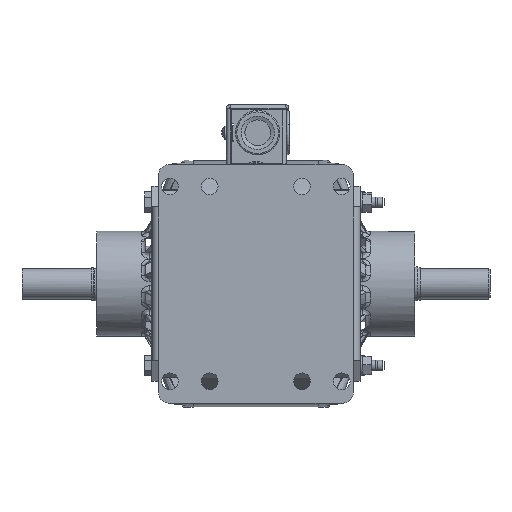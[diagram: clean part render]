
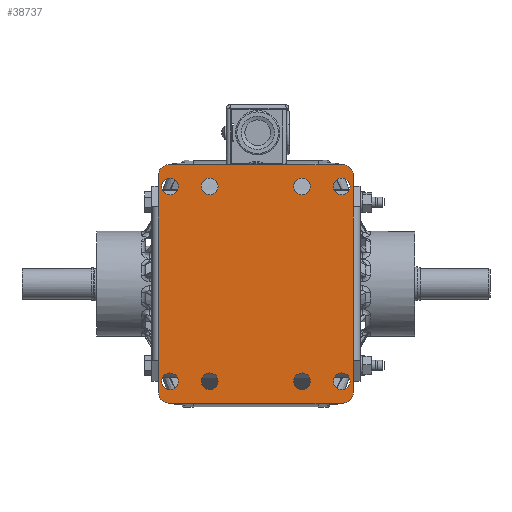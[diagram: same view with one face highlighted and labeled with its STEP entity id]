
A CAD part, left-side view. The second image highlights one B-rep face of the part: STEP entity #38737.
In plain terms, the highlighted planar face has unit normal (-1, 0, 0).
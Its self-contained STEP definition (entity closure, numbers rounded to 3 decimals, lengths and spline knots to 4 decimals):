
#1733=FACE_BOUND('',#5344,.T.);
#1734=FACE_BOUND('',#5345,.T.);
#1735=FACE_BOUND('',#5346,.T.);
#1736=FACE_BOUND('',#5347,.T.);
#1737=FACE_BOUND('',#5348,.T.);
#1738=FACE_BOUND('',#5349,.T.);
#1739=FACE_BOUND('',#5350,.T.);
#1740=FACE_BOUND('',#5351,.T.);
#2055=PLANE('',#41654);
#2715=FACE_OUTER_BOUND('',#5343,.T.);
#5343=EDGE_LOOP('',(#26808,#26809,#26810,#26811,#26812,#26813,#26814,#26815,
#26816,#26817,#26818,#26819));
#5344=EDGE_LOOP('',(#26820));
#5345=EDGE_LOOP('',(#26821));
#5346=EDGE_LOOP('',(#26822));
#5347=EDGE_LOOP('',(#26823));
#5348=EDGE_LOOP('',(#26824));
#5349=EDGE_LOOP('',(#26825));
#5350=EDGE_LOOP('',(#26826));
#5351=EDGE_LOOP('',(#26827));
#9857=CIRCLE('',#41617,0.2031);
#9859=CIRCLE('',#41620,0.2031);
#9861=CIRCLE('',#41623,0.2031);
#9863=CIRCLE('',#41626,0.2031);
#9865=CIRCLE('',#41629,0.2031);
#9867=CIRCLE('',#41632,0.2031);
#9869=CIRCLE('',#41635,0.2031);
#9871=CIRCLE('',#41638,0.2031);
#9884=CIRCLE('',#41655,0.25);
#9885=CIRCLE('',#41656,0.25);
#9886=CIRCLE('',#41657,0.25);
#9887=CIRCLE('',#41658,0.25);
#12515=LINE('',#57998,#14190);
#12516=LINE('',#58000,#14191);
#12517=LINE('',#58002,#14192);
#12518=LINE('',#58006,#14193);
#12519=LINE('',#58010,#14194);
#12520=LINE('',#58012,#14195);
#12521=LINE('',#58014,#14196);
#12522=LINE('',#58018,#14197);
#14190=VECTOR('',#47133,39.3701);
#14191=VECTOR('',#47134,39.3701);
#14192=VECTOR('',#47135,39.3701);
#14193=VECTOR('',#47138,39.3701);
#14194=VECTOR('',#47141,39.3701);
#14195=VECTOR('',#47142,39.3701);
#14196=VECTOR('',#47143,39.3701);
#14197=VECTOR('',#47146,39.3701);
#15944=VERTEX_POINT('',#57911);
#15946=VERTEX_POINT('',#57917);
#15948=VERTEX_POINT('',#57923);
#15950=VERTEX_POINT('',#57929);
#15952=VERTEX_POINT('',#57935);
#15954=VERTEX_POINT('',#57941);
#15956=VERTEX_POINT('',#57947);
#15958=VERTEX_POINT('',#57953);
#15975=VERTEX_POINT('',#57996);
#15976=VERTEX_POINT('',#57997);
#15977=VERTEX_POINT('',#57999);
#15978=VERTEX_POINT('',#58001);
#15979=VERTEX_POINT('',#58003);
#15980=VERTEX_POINT('',#58005);
#15981=VERTEX_POINT('',#58007);
#15982=VERTEX_POINT('',#58009);
#15983=VERTEX_POINT('',#58011);
#15984=VERTEX_POINT('',#58013);
#15985=VERTEX_POINT('',#58015);
#15986=VERTEX_POINT('',#58017);
#19897=EDGE_CURVE('',#15944,#15944,#9857,.T.);
#19900=EDGE_CURVE('',#15946,#15946,#9859,.T.);
#19903=EDGE_CURVE('',#15948,#15948,#9861,.T.);
#19906=EDGE_CURVE('',#15950,#15950,#9863,.T.);
#19909=EDGE_CURVE('',#15952,#15952,#9865,.T.);
#19912=EDGE_CURVE('',#15954,#15954,#9867,.T.);
#19915=EDGE_CURVE('',#15956,#15956,#9869,.T.);
#19918=EDGE_CURVE('',#15958,#15958,#9871,.T.);
#19940=EDGE_CURVE('',#15975,#15976,#12515,.T.);
#19941=EDGE_CURVE('',#15975,#15977,#12516,.T.);
#19942=EDGE_CURVE('',#15978,#15977,#12517,.T.);
#19943=EDGE_CURVE('',#15978,#15979,#9884,.T.);
#19944=EDGE_CURVE('',#15980,#15979,#12518,.T.);
#19945=EDGE_CURVE('',#15980,#15981,#9885,.T.);
#19946=EDGE_CURVE('',#15982,#15981,#12519,.T.);
#19947=EDGE_CURVE('',#15982,#15983,#12520,.T.);
#19948=EDGE_CURVE('',#15984,#15983,#12521,.T.);
#19949=EDGE_CURVE('',#15984,#15985,#9886,.T.);
#19950=EDGE_CURVE('',#15986,#15985,#12522,.T.);
#19951=EDGE_CURVE('',#15986,#15976,#9887,.T.);
#26808=ORIENTED_EDGE('',*,*,#19940,.F.);
#26809=ORIENTED_EDGE('',*,*,#19941,.T.);
#26810=ORIENTED_EDGE('',*,*,#19942,.F.);
#26811=ORIENTED_EDGE('',*,*,#19943,.T.);
#26812=ORIENTED_EDGE('',*,*,#19944,.F.);
#26813=ORIENTED_EDGE('',*,*,#19945,.T.);
#26814=ORIENTED_EDGE('',*,*,#19946,.F.);
#26815=ORIENTED_EDGE('',*,*,#19947,.T.);
#26816=ORIENTED_EDGE('',*,*,#19948,.F.);
#26817=ORIENTED_EDGE('',*,*,#19949,.T.);
#26818=ORIENTED_EDGE('',*,*,#19950,.F.);
#26819=ORIENTED_EDGE('',*,*,#19951,.T.);
#26820=ORIENTED_EDGE('',*,*,#19918,.T.);
#26821=ORIENTED_EDGE('',*,*,#19915,.T.);
#26822=ORIENTED_EDGE('',*,*,#19912,.T.);
#26823=ORIENTED_EDGE('',*,*,#19909,.T.);
#26824=ORIENTED_EDGE('',*,*,#19897,.T.);
#26825=ORIENTED_EDGE('',*,*,#19900,.T.);
#26826=ORIENTED_EDGE('',*,*,#19903,.T.);
#26827=ORIENTED_EDGE('',*,*,#19906,.T.);
#38737=ADVANCED_FACE('',(#2715,#1733,#1734,#1735,#1736,#1737,#1738,#1739,
#1740),#2055,.T.);
#41617=AXIS2_PLACEMENT_3D('',#57912,#47041,#47042);
#41620=AXIS2_PLACEMENT_3D('',#57918,#47048,#47049);
#41623=AXIS2_PLACEMENT_3D('',#57924,#47055,#47056);
#41626=AXIS2_PLACEMENT_3D('',#57930,#47062,#47063);
#41629=AXIS2_PLACEMENT_3D('',#57936,#47069,#47070);
#41632=AXIS2_PLACEMENT_3D('',#57942,#47076,#47077);
#41635=AXIS2_PLACEMENT_3D('',#57948,#47083,#47084);
#41638=AXIS2_PLACEMENT_3D('',#57954,#47090,#47091);
#41654=AXIS2_PLACEMENT_3D('',#57995,#47131,#47132);
#41655=AXIS2_PLACEMENT_3D('',#58004,#47136,#47137);
#41656=AXIS2_PLACEMENT_3D('',#58008,#47139,#47140);
#41657=AXIS2_PLACEMENT_3D('',#58016,#47144,#47145);
#41658=AXIS2_PLACEMENT_3D('',#58019,#47147,#47148);
#47041=DIRECTION('center_axis',(1.,0.,0.));
#47042=DIRECTION('ref_axis',(0.,-1.,0.));
#47048=DIRECTION('center_axis',(1.,0.,0.));
#47049=DIRECTION('ref_axis',(0.,-1.,0.));
#47055=DIRECTION('center_axis',(1.,0.,0.));
#47056=DIRECTION('ref_axis',(0.,-1.,0.));
#47062=DIRECTION('center_axis',(1.,0.,0.));
#47063=DIRECTION('ref_axis',(0.,-1.,0.));
#47069=DIRECTION('center_axis',(1.,0.,0.));
#47070=DIRECTION('ref_axis',(0.,-1.,0.));
#47076=DIRECTION('center_axis',(1.,0.,0.));
#47077=DIRECTION('ref_axis',(0.,-1.,0.));
#47083=DIRECTION('center_axis',(1.,0.,0.));
#47084=DIRECTION('ref_axis',(0.,-1.,0.));
#47090=DIRECTION('center_axis',(1.,0.,0.));
#47091=DIRECTION('ref_axis',(0.,-1.,0.));
#47131=DIRECTION('center_axis',(-1.,0.,0.));
#47132=DIRECTION('ref_axis',(0.,1.,0.));
#47133=DIRECTION('',(0.,0.,1.));
#47134=DIRECTION('',(0.,0.,-1.));
#47135=DIRECTION('',(0.,0.,1.));
#47136=DIRECTION('center_axis',(-1.,0.,0.));
#47137=DIRECTION('ref_axis',(0.,1.,0.));
#47138=DIRECTION('',(0.,1.,0.));
#47139=DIRECTION('center_axis',(-1.,0.,0.));
#47140=DIRECTION('ref_axis',(0.,1.,0.));
#47141=DIRECTION('',(0.,0.,-1.));
#47142=DIRECTION('',(0.,0.,1.));
#47143=DIRECTION('',(0.,0.,-1.));
#47144=DIRECTION('center_axis',(-1.,0.,0.));
#47145=DIRECTION('ref_axis',(0.,1.,0.));
#47146=DIRECTION('',(0.,-1.,0.));
#47147=DIRECTION('center_axis',(-1.,0.,0.));
#47148=DIRECTION('ref_axis',(0.,1.,0.));
#57911=CARTESIAN_POINT('',(-3.289,2.2732,2.3421));
#57912=CARTESIAN_POINT('Origin',(-3.289,2.0701,2.3421));
#57917=CARTESIAN_POINT('',(-3.289,1.3044,2.3421));
#57918=CARTESIAN_POINT('Origin',(-3.289,1.1013,2.3421));
#57923=CARTESIAN_POINT('',(-3.289,-0.9456,2.3421));
#57924=CARTESIAN_POINT('Origin',(-3.289,-1.1487,2.3421));
#57929=CARTESIAN_POINT('',(-3.289,-1.9143,2.3421));
#57930=CARTESIAN_POINT('Origin',(-3.289,-2.1174,2.3421));
#57935=CARTESIAN_POINT('',(-3.289,-1.9143,-2.4079));
#57936=CARTESIAN_POINT('Origin',(-3.289,-2.1174,-2.4079));
#57941=CARTESIAN_POINT('',(-3.289,-0.9456,-2.4079));
#57942=CARTESIAN_POINT('Origin',(-3.289,-1.1487,-2.4079));
#57947=CARTESIAN_POINT('',(-3.289,1.3044,-2.4079));
#57948=CARTESIAN_POINT('Origin',(-3.289,1.1013,-2.4079));
#57953=CARTESIAN_POINT('',(-3.289,2.2732,-2.4079));
#57954=CARTESIAN_POINT('Origin',(-3.289,2.0701,-2.4079));
#57995=CARTESIAN_POINT('Origin',(-3.289,-0.0237,-0.0329));
#57996=CARTESIAN_POINT('',(-3.289,2.3513,1.8421));
#57997=CARTESIAN_POINT('',(-3.289,2.3513,2.6233));
#57998=CARTESIAN_POINT('',(-3.289,2.3513,2.8733));
#57999=CARTESIAN_POINT('',(-3.289,2.3513,-1.9079));
#58000=CARTESIAN_POINT('',(-3.289,2.3513,-0.0329));
#58001=CARTESIAN_POINT('',(-3.289,2.3513,-2.6892));
#58002=CARTESIAN_POINT('',(-3.289,2.3513,2.8733));
#58003=CARTESIAN_POINT('',(-3.289,2.1013,-2.9392));
#58004=CARTESIAN_POINT('Origin',(-3.289,2.1013,-2.6892));
#58005=CARTESIAN_POINT('',(-3.289,-2.1487,-2.9392));
#58006=CARTESIAN_POINT('',(-3.289,-2.3987,-2.9392));
#58007=CARTESIAN_POINT('',(-3.289,-2.3987,-2.6892));
#58008=CARTESIAN_POINT('Origin',(-3.289,-2.1487,-2.6892));
#58009=CARTESIAN_POINT('',(-3.289,-2.3987,-1.9079));
#58010=CARTESIAN_POINT('',(-3.289,-2.3987,2.8733));
#58011=CARTESIAN_POINT('',(-3.289,-2.3987,1.8421));
#58012=CARTESIAN_POINT('',(-3.289,-2.3987,-0.0329));
#58013=CARTESIAN_POINT('',(-3.289,-2.3987,2.6233));
#58014=CARTESIAN_POINT('',(-3.289,-2.3987,2.8733));
#58015=CARTESIAN_POINT('',(-3.289,-2.1487,2.8733));
#58016=CARTESIAN_POINT('Origin',(-3.289,-2.1487,2.6233));
#58017=CARTESIAN_POINT('',(-3.289,2.1013,2.8733));
#58018=CARTESIAN_POINT('',(-3.289,-2.3987,2.8733));
#58019=CARTESIAN_POINT('Origin',(-3.289,2.1013,2.6233));
